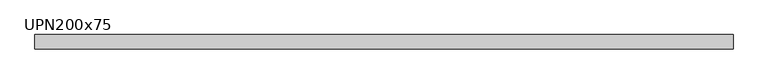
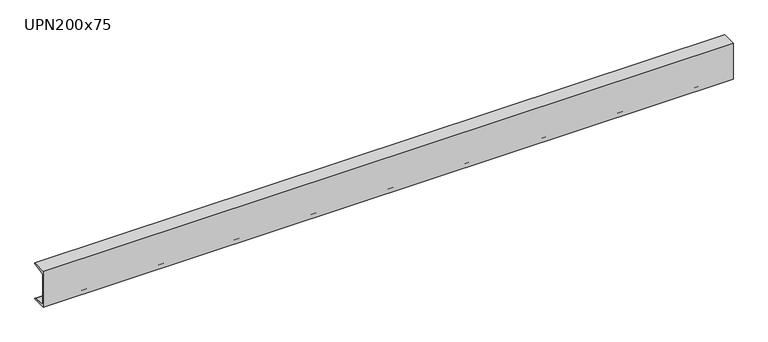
"""IFC4 building model written with IfcOpenShell, lengths in millimetres: beam geometry, M_MC Shapes : UPN200x75."""

from ifc_helpers import new_model, si_unit, point, frame, frame_2d, origin, place, context, project, spatial, polyline, circle_curve, trimmed, segment, composite_curve, outline, extrude, source, transform, mapped, element, save


def upn200x75_b5eab664(model_context):
    return source(origin(), model_context, "Body", "SweptSolid", [
        extrude(outline(composite_curve([segment(polyline([(-10.9, 100.0), (64.1, 100.0), (64.1, 99.0253247)]), True, "CONTINUOUS"), segment(trimmed(circle_curve(frame_2d((60.15, 99.0253247)), 3.95), [point((64.1, 99.0253247))], [point((60.7993773, 95.1290689))], False, "CARTESIAN"), True, "CONTINUOUS"), segment(polyline([(60.7993773, 95.1290689), (0.2512455, 85.0376935)]), True, "CONTINUOUS"), segment(trimmed(circle_curve(frame_2d((1.55, 77.2451819)), 7.9), [point((0.2512455, 85.0376935))], [point((-6.35, 77.2451819))], True, "CARTESIAN"), True, "CONTINUOUS"), segment(polyline([(-6.35, 77.2451819), (-6.35, -77.2451819)]), True, "CONTINUOUS"), segment(trimmed(circle_curve(frame_2d((1.55, -77.2451819)), 7.9), [point((-6.35, -77.2451819))], [point((0.2512455, -85.0376935))], True, "CARTESIAN"), True, "CONTINUOUS"), segment(polyline([(0.2512455, -85.0376935), (60.7993773, -95.1290689)]), True, "CONTINUOUS"), segment(trimmed(circle_curve(frame_2d((60.15, -99.0253247)), 3.95), [point((60.7993773, -95.1290689))], [point((64.1, -99.0253247))], False, "CARTESIAN"), True, "CONTINUOUS"), segment(polyline([(64.1, -99.0253247), (64.1, -100.0), (-10.9, -100.0), (-10.9, 100.0)]), True, "CONTINUOUS")], self_intersect=False)), frame((-1812.45, 0.0, 0.0), z_axis=(1.0, 0.0, 0.0), x_axis=(0.0, 1.0, 0.0)), (0.0, 0.0, 1.0), 3624.9),
    ])


if __name__ == "__main__":
    model = new_model("IFC4")
    model_context = context("Model", 3, world=origin())
    ifc_project = project(units=[si_unit("LENGTHUNIT", "METRE", prefix="MILLI")], contexts=[model_context])
    site = spatial("IfcSite", under=ifc_project)
    building = spatial("IfcBuilding", under=site)
    placement = place(None, origin())
    upn200x75_shape = upn200x75_b5eab664(model_context)
    element("IfcBeam", 1, ObjectType="M_MC Shapes : UPN200x75", at=placement, inside=building, context=model_context, shape_type="MappedRepresentation", body=[
        mapped(upn200x75_shape, transform((0.0, 0.0, 0.0), x_axis=(1.0, 0.0, 0.0), y_axis=(0.0, 1.0, 0.0), z_axis=(0.0, 0.0, 1.0))),
    ])
    save(model, "model.ifc")
